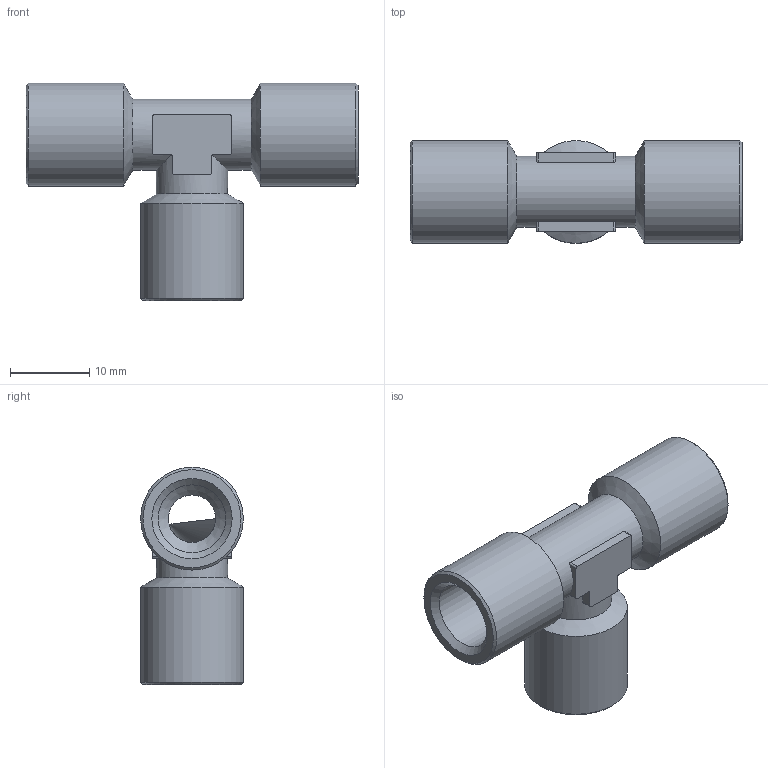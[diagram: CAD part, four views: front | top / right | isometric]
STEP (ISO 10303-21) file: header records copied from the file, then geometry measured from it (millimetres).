
FILE_DESCRIPTION(/* description */ (''),/* implementation_level */ '2;1');
FILE_NAME(/* name */ '40003_111_G18_27.09.16',/* time_stamp */ '2016-09-27T10:26:07+02:00',/* author */ (''),/* organization */ (''),/* preprocessor_version */ 'ST-DEVELOPER v16.5',/* originating_system */ 'HiCAD 2016 2101.0 Build 254',/* authorisation */ '');
FILE_SCHEMA (('AUTOMOTIVE_DESIGN { 1 0 10303 214 1 1 1 1 }'));
Length unit declared in the file: millimetre
Products named in the file (2): Root; 40003
Assembly tree (1 placements, depth 2):
  Root
    40003
Bounding box: 42 x 13 x 27.5 mm (x, y, z)
Volume: 3997.9 mm3; surface area: 3836.7 mm2
Topology: 1 solids, 1 shells, 59 faces, 157 edges, 99 vertices
Faces by surface type: cylinder 26, plane 21, cone 12
Full cylindrical faces by diameter (mm): 6 x2, 8.566 x3, 9 x2, 13 x3
Entity records: 5713 total; most frequent: CARTESIAN_POINT 3072, DIRECTION 280, PRESENTATION_STYLE_ASSIGNMENT 257, COLOUR_RGB 257, DRAUGHTING_PRE_DEFINED_CURVE_FONT 256, CURVE_STYLE 256, OVER_RIDING_STYLED_ITEM 256, ORIENTED_EDGE 256
